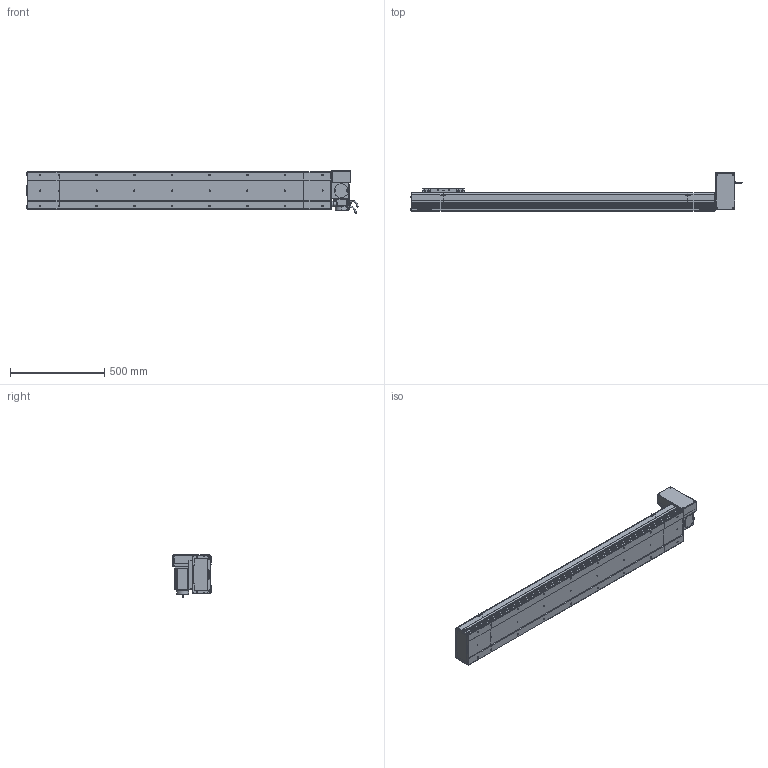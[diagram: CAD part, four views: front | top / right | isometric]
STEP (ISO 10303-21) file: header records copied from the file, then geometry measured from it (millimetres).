
FILE_DESCRIPTION (( 'STEP AP214' ), '1' );
FILE_NAME ('D20 CBH LT S1300.STEP', '2010-06-30T09:01:29', ( 'Conseil Régional Haute-Normandie' ), ( 'Conseil Régional Haute-Normandie' ), 'SwSTEP 2.0', 'SolidWorks 2010', '' );
FILE_SCHEMA (( 'AUTOMOTIVE_DESIGN' ));
Length unit declared in the file: millimetre
Products named in the file (31): Corp S1300_Default; Corp D20 S1300_Default; Couvercle S1300_Default; Tail D20+100_Default; Corp Tail D20+100_Default; Plaque de Bout Tail D20_Default; Couvercle_Default; Plaque De Serrage D20_Default; vis M5 L15_Default; D20 CBH LT S1300; Couvercle LT_Default; Corp Tail D20 LT_Default; Head LT_Default; Rondelle Cache D20 LT_Default; Plaque De Serrage D20 LT_Default; Plaque de Bout Head D20 LT_Default; avant 90BLDC125A-640; Moteur motionking 90BLDC125A-640; Support moteur LT_Default; Conecteur2_Default; codeur 90BLDC125-640; corps 90BLDC125A-640; ecrou_Default; Cache Support Moteur LT_Default; Conecteur_Default; Chariot D20_Default; vis M5 L47_Default; vis M5 L30_Default; Glissiere_Default; Support Chariot D20_Default
Assembly tree (66 placements, depth 4):
  D20 CBH LT S1300
    Chariot D20_Default
      vis M5 L15_Default  x8
      Support Chariot D20_Default
      Glissiere_Default
      Chariot D20_Default
    Head LT_Default
      ecrou_Default  x4
      Rondelle Cache D20 LT_Default  x3
      vis M5 L30_Default  x4
      vis M5 L15_Default  x12
      Corp Tail D20 LT_Default
      Support moteur LT_Default
      Moteur motionking 90BLDC125A-640
        corps 90BLDC125A-640
        codeur 90BLDC125-640
        avant 90BLDC125A-640
        Conecteur2_Default
        Conecteur_Default
      vis M5 L47_Default  x4
      Cache Support Moteur LT_Default
      Plaque De Serrage D20 LT_Default
      Plaque de Bout Head D20 LT_Default
      Couvercle LT_Default
    Tail D20+100_Default
      Couvercle_Default
      vis M5 L15_Default  x6
      Plaque de Bout Tail D20_Default
      Corp Tail D20+100_Default
      Plaque De Serrage D20_Default
    Corp D20 S1300_Default
      Corp S1300_Default
      Couvercle S1300_Default
Bounding box: 1763.45 x 202.5 x 229.7 mm (x, y, z)
Volume: 12424482.8 mm3; surface area: 2494092.2 mm2
Topology: 103 solids, 103 shells, 3759 faces, 9440 edges, 6136 vertices
Faces by surface type: plane 2092, bspline 806, cylinder 698, torus 91, cone 68, sphere 4
Entity records: 160318 total; most frequent: CARTESIAN_POINT 83179, ORIENTED_EDGE 15348, DIRECTION 11544, EDGE_CURVE 7674, VERTEX_POINT 5080, VECTOR 4946, LINE 4946, AXIS2_PLACEMENT_3D 3299
